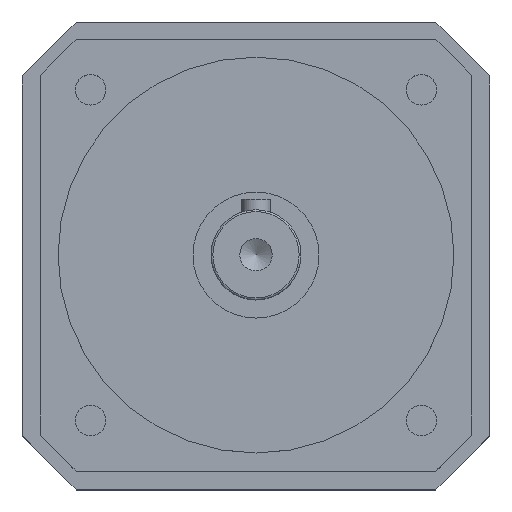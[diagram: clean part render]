
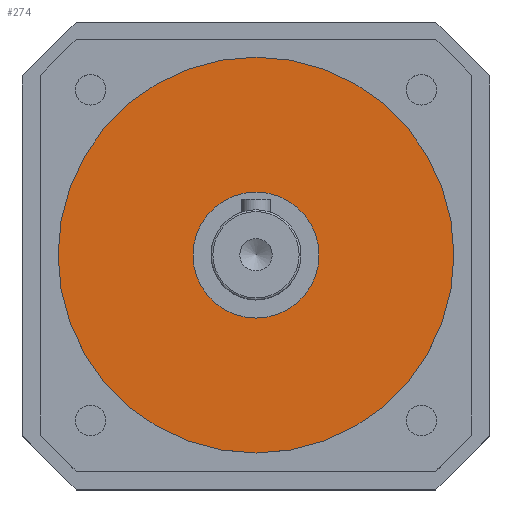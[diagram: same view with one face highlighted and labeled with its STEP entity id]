
A CAD part, top view. The second image highlights one B-rep face of the part: STEP entity #274.
In plain terms, the highlighted planar face has unit normal (0, 0, 1).
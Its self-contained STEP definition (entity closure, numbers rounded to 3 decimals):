
#274=ADVANCED_FACE('',(#385,#386),#329,.F.);
#329=PLANE('',#985);
#385=FACE_BOUND('',#467,.T.);
#386=FACE_BOUND('',#468,.T.);
#467=EDGE_LOOP('',(#588));
#468=EDGE_LOOP('',(#589));
#588=ORIENTED_EDGE('',*,*,#860,.F.);
#589=ORIENTED_EDGE('',*,*,#855,.F.);
#773=VERTEX_POINT('',#1397);
#778=VERTEX_POINT('',#1411);
#855=EDGE_CURVE('',#773,#773,#928,.T.);
#860=EDGE_CURVE('',#778,#778,#933,.T.);
#928=CIRCLE('',#974,17.5);
#933=CIRCLE('',#983,55.);
#974=AXIS2_PLACEMENT_3D('',#1396,#1121,#1122);
#983=AXIS2_PLACEMENT_3D('',#1410,#1139,#1140);
#985=AXIS2_PLACEMENT_3D('',#1413,#1143,#1144);
#1121=DIRECTION('',(0.,0.,1.));
#1122=DIRECTION('',(1.,0.,0.));
#1139=DIRECTION('',(0.,0.,-1.));
#1140=DIRECTION('',(1.,0.,0.));
#1143=DIRECTION('',(0.,0.,-1.));
#1144=DIRECTION('',(-1.,0.,0.));
#1396=CARTESIAN_POINT('',(0.,0.,4.));
#1397=CARTESIAN_POINT('',(17.5,0.,4.));
#1410=CARTESIAN_POINT('',(0.,0.,4.));
#1411=CARTESIAN_POINT('',(55.,0.,4.));
#1413=CARTESIAN_POINT('',(0.,0.,4.));
